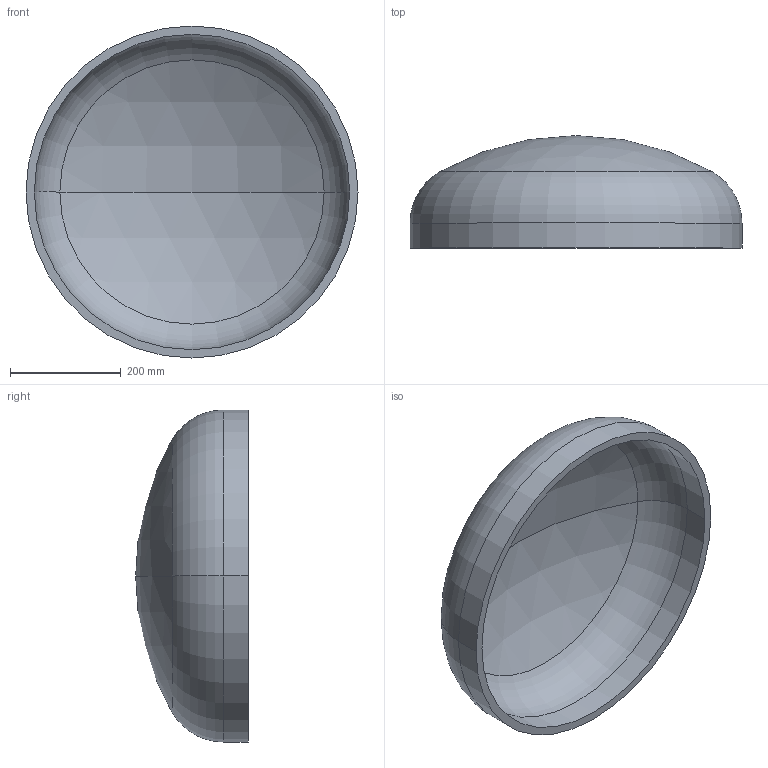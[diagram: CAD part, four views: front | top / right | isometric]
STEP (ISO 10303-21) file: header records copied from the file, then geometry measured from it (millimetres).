
FILE_DESCRIPTION (( 'STEP AP203' ), '1' );
FILE_NAME ('DIN 28013 Korbbogenform_-_Boden DIN 28013 - 600 x 45 - I - s=15.step', '2016-07-01T07:57:47', ( '' ), ( '' ), 'SwSTEP 2.0', 'SolidWorks 2013', '' );
FILE_SCHEMA (( 'CONFIG_CONTROL_DESIGN' ));
Length unit declared in the file: millimetre
Products named in the file (1): DIN 28013 Korbbogenform_-_Boden DIN 28013 - 600 x 45 - I - s=15
Bounding box: 600 x 203.41 x 600 mm (x, y, z)
Volume: 6920068.5 mm3; surface area: 950714.2 mm2
Topology: 1 solids, 1 shells, 13 faces, 24 edges, 14 vertices
Faces by surface type: torus 4, cylinder 4, sphere 4, plane 1
Entity records: 407 total; most frequent: DIRECTION 72, CARTESIAN_POINT 52, ORIENTED_EDGE 48, AXIS2_PLACEMENT_3D 34, EDGE_CURVE 24, CIRCLE 20, EDGE_LOOP 14, VERTEX_POINT 14
